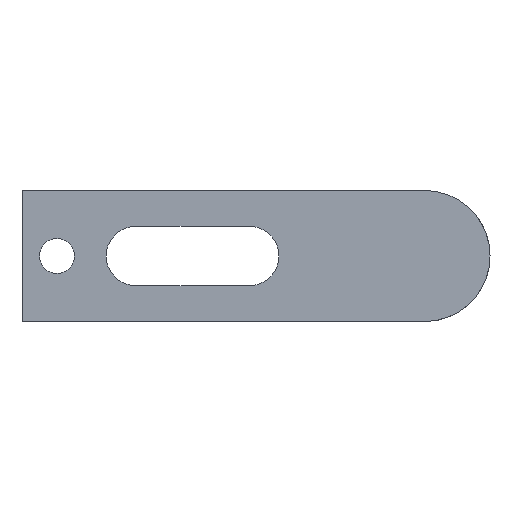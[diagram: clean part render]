
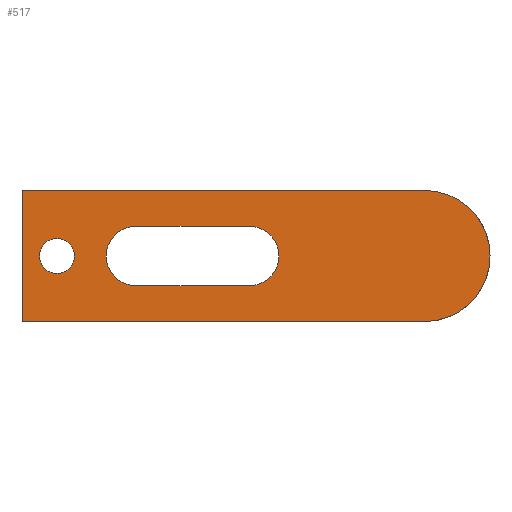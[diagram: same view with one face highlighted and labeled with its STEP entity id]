
A CAD part, front view. The second image highlights one B-rep face of the part: STEP entity #517.
In plain terms, the highlighted planar face has unit normal (0, -1, 0).
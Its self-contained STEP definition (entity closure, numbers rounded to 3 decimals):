
#290=CARTESIAN_POINT('Vertex',(-15.,0.,15.)) ;
#293=CARTESIAN_POINT('Axis2P3D Location',(-15.,0.,0.)) ;
#297=CARTESIAN_POINT('Vertex',(-15.,0.,-15.)) ;
#399=CARTESIAN_POINT('Line Origine',(-61.,0.,15.)) ;
#403=CARTESIAN_POINT('Vertex',(-107.,0.,15.)) ;
#426=CARTESIAN_POINT('Axis2P3D Location',(-107.,0.,15.)) ;
#431=CARTESIAN_POINT('Line Origine',(-61.,0.,-15.)) ;
#435=CARTESIAN_POINT('Vertex',(-107.,0.,-15.)) ;
#438=CARTESIAN_POINT('Line Origine',(-107.,0.,0.)) ;
#449=CARTESIAN_POINT('Axis2P3D Location',(-99.,0.,0.)) ;
#453=CARTESIAN_POINT('Vertex',(-95.,0.,0.)) ;
#455=CARTESIAN_POINT('Vertex',(-99.,0.,-4.)) ;
#458=CARTESIAN_POINT('Axis2P3D Location',(-99.,0.,0.)) ;
#462=CARTESIAN_POINT('Vertex',(-103.,0.,0.)) ;
#465=CARTESIAN_POINT('Axis2P3D Location',(-99.,0.,0.)) ;
#469=CARTESIAN_POINT('Vertex',(-99.,0.,4.)) ;
#472=CARTESIAN_POINT('Axis2P3D Location',(-99.,0.,0.)) ;
#483=CARTESIAN_POINT('Line Origine',(-68.,0.,-6.75)) ;
#487=CARTESIAN_POINT('Vertex',(-55.,0.,-6.75)) ;
#489=CARTESIAN_POINT('Vertex',(-81.,0.,-6.75)) ;
#492=CARTESIAN_POINT('Axis2P3D Location',(-81.,0.,0.)) ;
#496=CARTESIAN_POINT('Vertex',(-81.,0.,6.75)) ;
#499=CARTESIAN_POINT('Line Origine',(-68.,0.,6.75)) ;
#503=CARTESIAN_POINT('Vertex',(-55.,0.,6.75)) ;
#506=CARTESIAN_POINT('Axis2P3D Location',(-55.,0.,0.)) ;
#294=DIRECTION('Axis2P3D Direction',(0.,1.,0.)) ;
#400=DIRECTION('Vector Direction',(1.,0.,0.)) ;
#427=DIRECTION('Axis2P3D Direction',(0.,1.,0.)) ;
#428=DIRECTION('Axis2P3D XDirection',(0.,-0.,1.)) ;
#432=DIRECTION('Vector Direction',(1.,0.,0.)) ;
#439=DIRECTION('Vector Direction',(0.,0.,-1.)) ;
#450=DIRECTION('Axis2P3D Direction',(0.,1.,0.)) ;
#459=DIRECTION('Axis2P3D Direction',(0.,1.,0.)) ;
#466=DIRECTION('Axis2P3D Direction',(0.,1.,0.)) ;
#473=DIRECTION('Axis2P3D Direction',(0.,1.,0.)) ;
#484=DIRECTION('Vector Direction',(-1.,0.,0.)) ;
#493=DIRECTION('Axis2P3D Direction',(0.,1.,0.)) ;
#500=DIRECTION('Vector Direction',(1.,0.,0.)) ;
#507=DIRECTION('Axis2P3D Direction',(0.,1.,0.)) ;
#295=AXIS2_PLACEMENT_3D('Circle Axis2P3D',#293,#294,$) ;
#429=AXIS2_PLACEMENT_3D('Plane Axis2P3D',#426,#427,#428) ;
#451=AXIS2_PLACEMENT_3D('Circle Axis2P3D',#449,#450,$) ;
#460=AXIS2_PLACEMENT_3D('Circle Axis2P3D',#458,#459,$) ;
#467=AXIS2_PLACEMENT_3D('Circle Axis2P3D',#465,#466,$) ;
#474=AXIS2_PLACEMENT_3D('Circle Axis2P3D',#472,#473,$) ;
#494=AXIS2_PLACEMENT_3D('Circle Axis2P3D',#492,#493,$) ;
#508=AXIS2_PLACEMENT_3D('Circle Axis2P3D',#506,#507,$) ;
#444=ORIENTED_EDGE('',*,*,#437,.T.) ;
#445=ORIENTED_EDGE('',*,*,#299,.F.) ;
#446=ORIENTED_EDGE('',*,*,#405,.F.) ;
#447=ORIENTED_EDGE('',*,*,#442,.T.) ;
#478=ORIENTED_EDGE('',*,*,#457,.T.) ;
#479=ORIENTED_EDGE('',*,*,#464,.T.) ;
#480=ORIENTED_EDGE('',*,*,#471,.T.) ;
#481=ORIENTED_EDGE('',*,*,#476,.T.) ;
#512=ORIENTED_EDGE('',*,*,#491,.T.) ;
#513=ORIENTED_EDGE('',*,*,#498,.T.) ;
#514=ORIENTED_EDGE('',*,*,#505,.T.) ;
#515=ORIENTED_EDGE('',*,*,#510,.T.) ;
#482=FACE_BOUND('',#477,.T.) ;
#516=FACE_BOUND('',#511,.T.) ;
#401=VECTOR('Line Direction',#400,1.) ;
#433=VECTOR('Line Direction',#432,1.) ;
#440=VECTOR('Line Direction',#439,1.) ;
#485=VECTOR('Line Direction',#484,1.) ;
#501=VECTOR('Line Direction',#500,1.) ;
#517=ADVANCED_FACE('702-3',(#448,#482,#516),#430,.F.) ;
#296=CIRCLE('generated circle',#295,15.) ;
#452=CIRCLE('generated circle',#451,4.) ;
#461=CIRCLE('generated circle',#460,4.) ;
#468=CIRCLE('generated circle',#467,4.) ;
#475=CIRCLE('generated circle',#474,4.) ;
#495=CIRCLE('generated circle',#494,6.75) ;
#509=CIRCLE('generated circle',#508,6.75) ;
#299=EDGE_CURVE('',#291,#298,#296,.T.) ;
#405=EDGE_CURVE('',#404,#291,#402,.T.) ;
#437=EDGE_CURVE('',#436,#298,#434,.T.) ;
#442=EDGE_CURVE('',#404,#436,#441,.T.) ;
#457=EDGE_CURVE('',#454,#456,#452,.T.) ;
#464=EDGE_CURVE('',#456,#463,#461,.T.) ;
#471=EDGE_CURVE('',#463,#470,#468,.T.) ;
#476=EDGE_CURVE('',#470,#454,#475,.T.) ;
#491=EDGE_CURVE('',#488,#490,#486,.T.) ;
#498=EDGE_CURVE('',#490,#497,#495,.T.) ;
#505=EDGE_CURVE('',#497,#504,#502,.T.) ;
#510=EDGE_CURVE('',#504,#488,#509,.T.) ;
#443=EDGE_LOOP('',(#444,#445,#446,#447)) ;
#477=EDGE_LOOP('',(#478,#479,#480,#481)) ;
#511=EDGE_LOOP('',(#512,#513,#514,#515)) ;
#448=FACE_OUTER_BOUND('',#443,.T.) ;
#402=LINE('Line',#399,#401) ;
#434=LINE('Line',#431,#433) ;
#441=LINE('Line',#438,#440) ;
#486=LINE('Line',#483,#485) ;
#502=LINE('Line',#499,#501) ;
#430=PLANE('Plane',#429) ;
#291=VERTEX_POINT('',#290) ;
#298=VERTEX_POINT('',#297) ;
#404=VERTEX_POINT('',#403) ;
#436=VERTEX_POINT('',#435) ;
#454=VERTEX_POINT('',#453) ;
#456=VERTEX_POINT('',#455) ;
#463=VERTEX_POINT('',#462) ;
#470=VERTEX_POINT('',#469) ;
#488=VERTEX_POINT('',#487) ;
#490=VERTEX_POINT('',#489) ;
#497=VERTEX_POINT('',#496) ;
#504=VERTEX_POINT('',#503) ;
